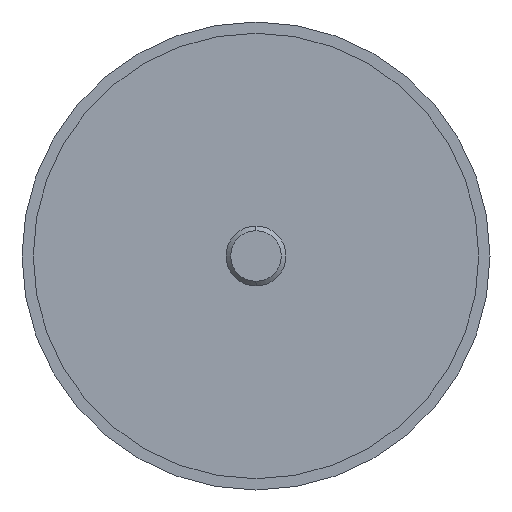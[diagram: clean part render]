
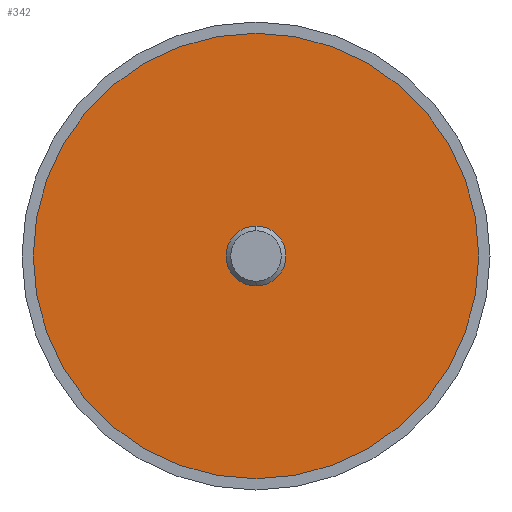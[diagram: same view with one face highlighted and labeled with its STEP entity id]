
A CAD part, left-side view. The second image highlights one B-rep face of the part: STEP entity #342.
In plain terms, the highlighted planar face has unit normal (-1, 0, 0).
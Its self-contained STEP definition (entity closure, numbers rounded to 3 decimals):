
#10 = ORIENTED_EDGE ( 'NONE', *, *, #432, .T. ) ;
#11 = DIRECTION ( 'NONE',  ( 0., 0., 1. ) ) ;
#22 = DIRECTION ( 'NONE',  ( 0., 0., -1. ) ) ;
#25 = AXIS2_PLACEMENT_3D ( 'NONE', #640, #528, #55 ) ;
#32 = CARTESIAN_POINT ( 'NONE',  ( -37.49, 0., 8. ) ) ;
#55 = DIRECTION ( 'NONE',  ( 0., 0., -1. ) ) ;
#75 = CIRCLE ( 'NONE', #25, 8. ) ;
#89 = FACE_BOUND ( 'NONE', #416, .T. ) ;
#123 = CIRCLE ( 'NONE', #547, 59.5 ) ;
#160 = DIRECTION ( 'NONE',  ( -1., 0., 0. ) ) ;
#191 = AXIS2_PLACEMENT_3D ( 'NONE', #468, #160, #11 ) ;
#193 = FACE_OUTER_BOUND ( 'NONE', #320, .T. ) ;
#201 = VERTEX_POINT ( 'NONE', #235 ) ;
#222 = VERTEX_POINT ( 'NONE', #32 ) ;
#235 = CARTESIAN_POINT ( 'NONE',  ( -37.49, 0., 59.5 ) ) ;
#259 = ORIENTED_EDGE ( 'NONE', *, *, #285, .F. ) ;
#267 = CARTESIAN_POINT ( 'NONE',  ( -37.49, 0., 0. ) ) ;
#278 = CARTESIAN_POINT ( 'NONE',  ( -37.49, 0., -8. ) ) ;
#279 = CARTESIAN_POINT ( 'NONE',  ( -37.49, 0., 0. ) ) ;
#285 = EDGE_CURVE ( 'NONE', #222, #642, #374, .T. ) ;
#291 = DIRECTION ( 'NONE',  ( 0., 0., -1. ) ) ;
#299 = PLANE ( 'NONE',  #335 ) ;
#303 = DIRECTION ( 'NONE',  ( 1., 0., 0. ) ) ;
#320 = EDGE_LOOP ( 'NONE', ( #515, #10 ) ) ;
#335 = AXIS2_PLACEMENT_3D ( 'NONE', #401, #303, #291 ) ;
#342 = ADVANCED_FACE ( 'NONE', ( #193, #89 ), #299, .F. ) ;
#350 = VERTEX_POINT ( 'NONE', #397 ) ;
#374 = CIRCLE ( 'NONE', #428, 8. ) ;
#397 = CARTESIAN_POINT ( 'NONE',  ( -37.49, 0., -59.5 ) ) ;
#401 = CARTESIAN_POINT ( 'NONE',  ( -37.49, 59.5, 0. ) ) ;
#409 = EDGE_CURVE ( 'NONE', #642, #222, #75, .T. ) ;
#415 = DIRECTION ( 'NONE',  ( -1., 0., 0. ) ) ;
#416 = EDGE_LOOP ( 'NONE', ( #259, #427 ) ) ;
#426 = DIRECTION ( 'NONE',  ( 0., 0., 1. ) ) ;
#427 = ORIENTED_EDGE ( 'NONE', *, *, #409, .F. ) ;
#428 = AXIS2_PLACEMENT_3D ( 'NONE', #279, #659, #22 ) ;
#432 = EDGE_CURVE ( 'NONE', #350, #201, #456, .T. ) ;
#456 = CIRCLE ( 'NONE', #191, 59.5 ) ;
#468 = CARTESIAN_POINT ( 'NONE',  ( -37.49, 0., 0. ) ) ;
#515 = ORIENTED_EDGE ( 'NONE', *, *, #549, .T. ) ;
#528 = DIRECTION ( 'NONE',  ( -1., 0., 0. ) ) ;
#547 = AXIS2_PLACEMENT_3D ( 'NONE', #267, #415, #426 ) ;
#549 = EDGE_CURVE ( 'NONE', #201, #350, #123, .T. ) ;
#640 = CARTESIAN_POINT ( 'NONE',  ( -37.49, 0., 0. ) ) ;
#642 = VERTEX_POINT ( 'NONE', #278 ) ;
#659 = DIRECTION ( 'NONE',  ( -1., 0., 0. ) ) ;
